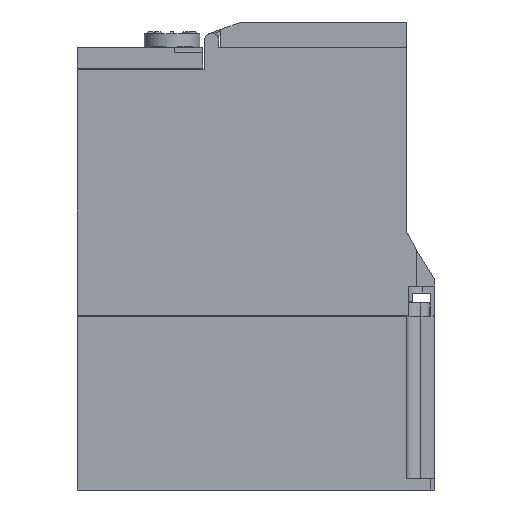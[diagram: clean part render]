
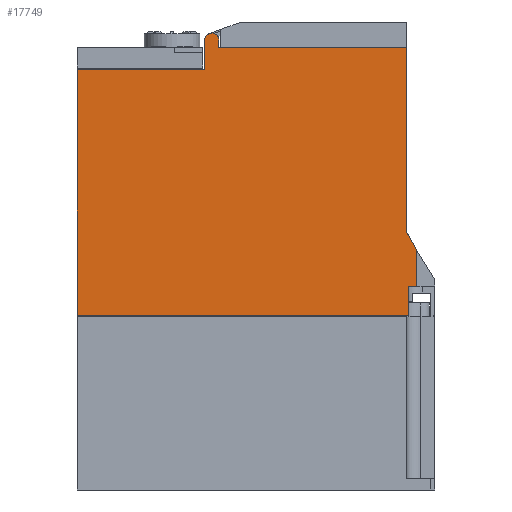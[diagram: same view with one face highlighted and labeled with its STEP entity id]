
A CAD part, left-side view. The second image highlights one B-rep face of the part: STEP entity #17749.
In plain terms, the highlighted planar face has unit normal (-1, 0, 0).
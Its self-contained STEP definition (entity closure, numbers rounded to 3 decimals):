
#2214=DIRECTION('',(0.,-1.,0.));
#2215=VECTOR('',#2214,118.5);
#2216=CARTESIAN_POINT('',(-34.,128.,0.5));
#2217=LINE('',#2216,#2215);
#3675=DIRECTION('',(0.,0.,1.));
#3676=VECTOR('',#3675,88.);
#3677=CARTESIAN_POINT('',(-34.,128.,0.5));
#3678=LINE('',#3677,#3676);
#3679=DIRECTION('',(0.,-0.017,1.));
#3680=VECTOR('',#3679,10.545);
#3681=CARTESIAN_POINT('',(-34.,82.484,88.5));
#3682=LINE('',#3681,#3680);
#3683=CARTESIAN_POINT('',(-34.,79.8,99.));
#3684=DIRECTION('',(1.,0.,0.));
#3685=DIRECTION('',(0.,1.,0.017));
#3686=AXIS2_PLACEMENT_3D('',#3683,#3684,#3685);
#3688=DIRECTION('',(0.,-0.017,-1.));
#3689=VECTOR('',#3688,2.544);
#3690=CARTESIAN_POINT('',(-34.,77.3,99.044));
#3691=LINE('',#3690,#3689);
#3692=DIRECTION('',(0.,0.,-1.));
#3693=VECTOR('',#3692,66.4);
#3694=CARTESIAN_POINT('',(-34.,10.,96.5));
#3695=LINE('',#3694,#3693);
#3696=DIRECTION('',(0.,-0.48,-0.877));
#3697=VECTOR('',#3696,7.078);
#3698=CARTESIAN_POINT('',(-34.,10.,30.1));
#3699=LINE('',#3698,#3697);
#3700=DIRECTION('',(0.,0.,1.));
#3701=VECTOR('',#3700,10.5);
#3702=CARTESIAN_POINT('',(-34.,9.5,0.5));
#3703=LINE('',#3702,#3701);
#3732=DIRECTION('',(0.,-1.,0.));
#3733=VECTOR('',#3732,45.516);
#3734=CARTESIAN_POINT('',(-34.,128.,88.5));
#3735=LINE('',#3734,#3733);
#7718=DIRECTION('',(0.,-1.,0.));
#7719=VECTOR('',#7718,67.256);
#7720=CARTESIAN_POINT('',(-34.,77.256,96.5));
#7721=LINE('',#7720,#7719);
#7854=DIRECTION('',(0.,0.,-1.));
#7855=VECTOR('',#7854,12.892);
#7856=CARTESIAN_POINT('',(-34.,6.6,23.892));
#7857=LINE('',#7856,#7855);
#7894=DIRECTION('',(0.,-1.,0.));
#7895=VECTOR('',#7894,2.9);
#7896=CARTESIAN_POINT('',(-34.,9.5,11.));
#7897=LINE('',#7896,#7895);
#10136=CARTESIAN_POINT('',(-34.,128.,88.5));
#10137=VERTEX_POINT('',#10136);
#10140=CARTESIAN_POINT('',(-34.,10.,96.5));
#10142=VERTEX_POINT('',#10140);
#10148=CARTESIAN_POINT('',(-34.,82.3,99.044));
#10149=CARTESIAN_POINT('',(-34.,77.3,99.044));
#10150=VERTEX_POINT('',#10148);
#10151=VERTEX_POINT('',#10149);
#10156=CARTESIAN_POINT('',(-34.,77.256,96.5));
#10157=VERTEX_POINT('',#10156);
#10365=CARTESIAN_POINT('',(-34.,128.,0.5));
#10367=VERTEX_POINT('',#10365);
#10436=CARTESIAN_POINT('',(-34.,82.484,88.5));
#10437=VERTEX_POINT('',#10436);
#10570=CARTESIAN_POINT('',(-34.,6.6,11.));
#10572=VERTEX_POINT('',#10570);
#10578=CARTESIAN_POINT('',(-34.,9.5,11.));
#10579=VERTEX_POINT('',#10578);
#10582=CARTESIAN_POINT('',(-34.,10.,30.1));
#10583=CARTESIAN_POINT('',(-34.,6.6,23.892));
#10584=VERTEX_POINT('',#10582);
#10585=VERTEX_POINT('',#10583);
#10634=CARTESIAN_POINT('',(-34.,9.5,0.5));
#10635=VERTEX_POINT('',#10634);
#17721=CARTESIAN_POINT('',(-34.,128.,0.));
#17722=DIRECTION('',(-1.,0.,0.));
#17723=DIRECTION('',(0.,-1.,0.));
#17724=AXIS2_PLACEMENT_3D('',#17721,#17722,#17723);
#17725=PLANE('',#17724);
#17726=ORIENTED_EDGE('',*,*,#15381,.F.);
#17728=ORIENTED_EDGE('',*,*,#17727,.T.);
#17730=ORIENTED_EDGE('',*,*,#17729,.T.);
#17732=ORIENTED_EDGE('',*,*,#17731,.T.);
#17734=ORIENTED_EDGE('',*,*,#17733,.T.);
#17736=ORIENTED_EDGE('',*,*,#17735,.T.);
#17738=ORIENTED_EDGE('',*,*,#17737,.T.);
#17740=ORIENTED_EDGE('',*,*,#17739,.T.);
#17741=ORIENTED_EDGE('',*,*,#15497,.T.);
#17743=ORIENTED_EDGE('',*,*,#17742,.T.);
#17745=ORIENTED_EDGE('',*,*,#17744,.F.);
#17746=ORIENTED_EDGE('',*,*,#17701,.F.);
#17747=EDGE_LOOP('',(#17726,#17728,#17730,#17732,#17734,#17736,#17738,#17740,
#17741,#17743,#17745,#17746));
#17748=FACE_OUTER_BOUND('',#17747,.F.);
#17749=ADVANCED_FACE('',(#17748),#17725,.T.);
#3687=CIRCLE('',#3686,2.5);
#15381=EDGE_CURVE('',#10367,#10635,#2217,.T.);
#15497=EDGE_CURVE('',#10584,#10585,#3699,.T.);
#17701=EDGE_CURVE('',#10635,#10579,#3703,.T.);
#17727=EDGE_CURVE('',#10367,#10137,#3678,.T.);
#17729=EDGE_CURVE('',#10137,#10437,#3735,.T.);
#17731=EDGE_CURVE('',#10437,#10150,#3682,.T.);
#17733=EDGE_CURVE('',#10150,#10151,#3687,.T.);
#17735=EDGE_CURVE('',#10151,#10157,#3691,.T.);
#17737=EDGE_CURVE('',#10157,#10142,#7721,.T.);
#17739=EDGE_CURVE('',#10142,#10584,#3695,.T.);
#17742=EDGE_CURVE('',#10585,#10572,#7857,.T.);
#17744=EDGE_CURVE('',#10579,#10572,#7897,.T.);
